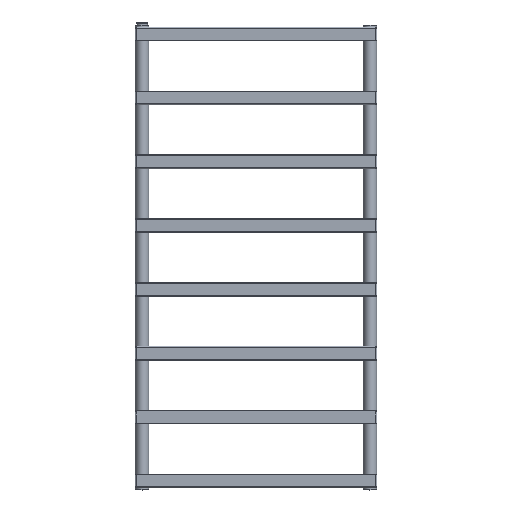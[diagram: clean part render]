
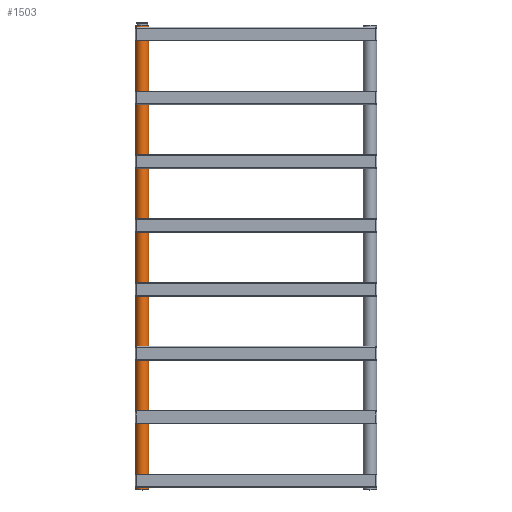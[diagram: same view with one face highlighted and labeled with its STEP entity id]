
A CAD part, top view. The second image highlights one B-rep face of the part: STEP entity #1503.
In plain terms, the highlighted cylindrical face has radius 15 mm (diameter 30 mm), a partial arc.
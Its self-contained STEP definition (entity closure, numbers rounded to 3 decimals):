
#340=DIRECTION('',(0.,1.,0.));
#341=VECTOR('',#340,1018.);
#342=CARTESIAN_POINT('',(235.,1.,0.));
#343=LINE('',#342,#341);
#867=CARTESIAN_POINT('',(250.,1.,0.));
#868=DIRECTION('',(0.,-1.,0.));
#869=DIRECTION('',(-1.,0.,0.));
#870=AXIS2_PLACEMENT_3D('',#867,#868,#869);
#875=DIRECTION('',(0.,1.,0.));
#876=VECTOR('',#875,1018.);
#877=CARTESIAN_POINT('',(265.,1.,0.));
#878=LINE('',#877,#876);
#882=CARTESIAN_POINT('',(250.,1019.,0.));
#883=DIRECTION('',(0.,1.,0.));
#884=DIRECTION('',(1.,0.,0.));
#885=AXIS2_PLACEMENT_3D('',#882,#883,#884);
#1182=CARTESIAN_POINT('',(265.,1.,0.));
#1183=CARTESIAN_POINT('',(235.,1.,0.));
#1184=VERTEX_POINT('',#1182);
#1185=VERTEX_POINT('',#1183);
#1190=CARTESIAN_POINT('',(235.,1019.,0.));
#1191=CARTESIAN_POINT('',(265.,1019.,0.));
#1192=VERTEX_POINT('',#1190);
#1193=VERTEX_POINT('',#1191);
#1491=CARTESIAN_POINT('',(250.,0.,0.));
#1492=DIRECTION('',(0.,1.,0.));
#1493=DIRECTION('',(1.,0.,0.));
#1494=AXIS2_PLACEMENT_3D('',#1491,#1492,#1493);
#1495=CYLINDRICAL_SURFACE('',#1494,15.);
#1496=ORIENTED_EDGE('',*,*,#1485,.T.);
#1497=ORIENTED_EDGE('',*,*,#1431,.T.);
#1499=ORIENTED_EDGE('',*,*,#1498,.T.);
#1500=ORIENTED_EDGE('',*,*,#1427,.F.);
#1501=EDGE_LOOP('',(#1496,#1497,#1499,#1500));
#1502=FACE_OUTER_BOUND('',#1501,.F.);
#871=CIRCLE('',#870,15.);
#886=CIRCLE('',#885,15.);
#1427=EDGE_CURVE('',#1185,#1192,#343,.T.);
#1431=EDGE_CURVE('',#1184,#1193,#878,.T.);
#1485=EDGE_CURVE('',#1185,#1184,#871,.T.);
#1498=EDGE_CURVE('',#1193,#1192,#886,.T.);
#1503=ADVANCED_FACE('',(#1502),#1495,.T.);
